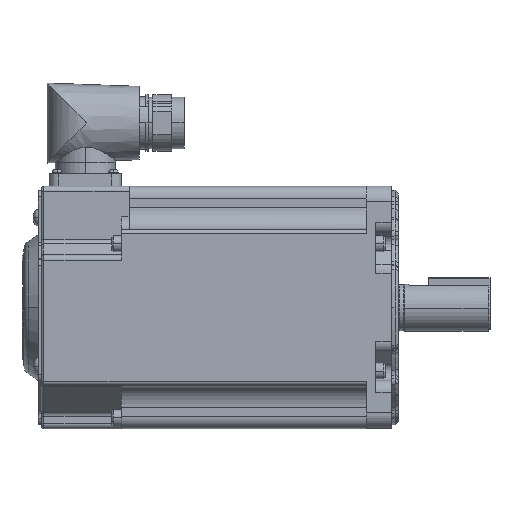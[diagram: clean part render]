
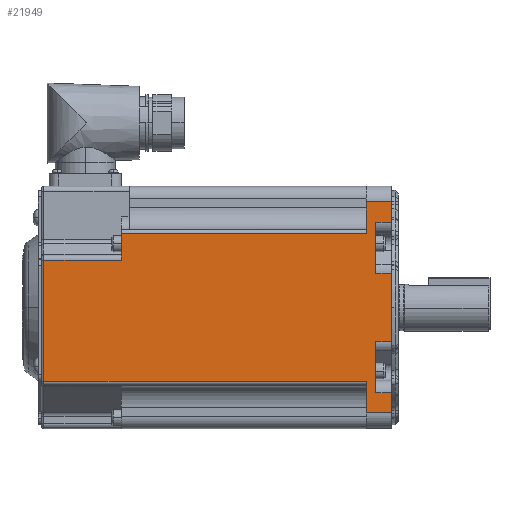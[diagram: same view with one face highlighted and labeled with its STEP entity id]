
A CAD part, top view. The second image highlights one B-rep face of the part: STEP entity #21949.
In plain terms, the highlighted planar face has unit normal (0, 0, 1) as drawn and (0, 0, -1) by its records, which use the part's own axes.
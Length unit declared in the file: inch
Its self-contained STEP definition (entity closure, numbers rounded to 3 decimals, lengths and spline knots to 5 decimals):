
#745 = FACE_OUTER_BOUND ( 'NONE', #7766, .T. ) ;
#748 = AXIS2_PLACEMENT_3D ( 'NONE', #11549, #11550, #11551 ) ;
#3017 = VERTEX_POINT ( 'NONE', #9523 ) ;
#3018 = VERTEX_POINT ( 'NONE', #9524 ) ;
#3030 = VERTEX_POINT ( 'NONE', #9536 ) ;
#3031 = VERTEX_POINT ( 'NONE', #9537 ) ;
#3052 = VERTEX_POINT ( 'NONE', #9558 ) ;
#3053 = VERTEX_POINT ( 'NONE', #9559 ) ;
#3054 = VERTEX_POINT ( 'NONE', #9560 ) ;
#3055 = VERTEX_POINT ( 'NONE', #9561 ) ;
#3056 = VERTEX_POINT ( 'NONE', #9562 ) ;
#3057 = VERTEX_POINT ( 'NONE', #9563 ) ;
#3058 = VERTEX_POINT ( 'NONE', #9564 ) ;
#3059 = VERTEX_POINT ( 'NONE', #9565 ) ;
#3060 = VERTEX_POINT ( 'NONE', #9566 ) ;
#3061 = VERTEX_POINT ( 'NONE', #9567 ) ;
#3062 = VERTEX_POINT ( 'NONE', #9568 ) ;
#3063 = VERTEX_POINT ( 'NONE', #9569 ) ;
#3983 = ORIENTED_EDGE ( 'NONE', *, *, #22528, .F. ) ;
#3985 = ORIENTED_EDGE ( 'NONE', *, *, #22529, .T. ) ;
#3986 = ORIENTED_EDGE ( 'NONE', *, *, #22527, .T. ) ;
#3987 = ORIENTED_EDGE ( 'NONE', *, *, #22530, .T. ) ;
#3988 = ORIENTED_EDGE ( 'NONE', *, *, #22438, .F. ) ;
#3989 = ORIENTED_EDGE ( 'NONE', *, *, #22531, .T. ) ;
#3990 = ORIENTED_EDGE ( 'NONE', *, *, #22533, .T. ) ;
#3991 = ORIENTED_EDGE ( 'NONE', *, *, #22532, .T. ) ;
#3992 = ORIENTED_EDGE ( 'NONE', *, *, #22534, .T. ) ;
#3993 = ORIENTED_EDGE ( 'NONE', *, *, #22535, .T. ) ;
#3994 = ORIENTED_EDGE ( 'NONE', *, *, #22536, .F. ) ;
#3995 = ORIENTED_EDGE ( 'NONE', *, *, #22537, .T. ) ;
#3996 = ORIENTED_EDGE ( 'NONE', *, *, #22502, .F. ) ;
#3997 = ORIENTED_EDGE ( 'NONE', *, *, #22538, .T. ) ;
#3998 = ORIENTED_EDGE ( 'NONE', *, *, #22540, .T. ) ;
#3999 = ORIENTED_EDGE ( 'NONE', *, *, #22539, .F. ) ;
#4000 = ORIENTED_EDGE ( 'NONE', *, *, #22481, .F. ) ;
#4001 = ORIENTED_EDGE ( 'NONE', *, *, #22541, .T. ) ;
#7766 = EDGE_LOOP ( 'NONE', ( #3983, #3986, #3985, #3987, #3988, #3989, #3991, #3990, #3992, #3993, #3994, #3995, #3996, #3997, #3999, #3998, #4000, #4001 ) ) ;
#8695 = VERTEX_POINT ( 'NONE', #10317 ) ;
#8696 = VERTEX_POINT ( 'NONE', #10318 ) ;
#9523 = CARTESIAN_POINT ( 'NONE',  ( -0.25, -1.36314, -1.935 ) ) ;
#9524 = CARTESIAN_POINT ( 'NONE',  ( -0.25, -0.54835, -1.935 ) ) ;
#9536 = CARTESIAN_POINT ( 'NONE',  ( -0.25, 0.54835, -1.935 ) ) ;
#9537 = CARTESIAN_POINT ( 'NONE',  ( -0.25, 1.36314, -1.935 ) ) ;
#9558 = CARTESIAN_POINT ( 'NONE',  ( 0., -1.685, -1.935 ) ) ;
#9559 = CARTESIAN_POINT ( 'NONE',  ( 0., -1.36314, -1.935 ) ) ;
#9560 = CARTESIAN_POINT ( 'NONE',  ( -0.4, -1.685, -1.935 ) ) ;
#9561 = CARTESIAN_POINT ( 'NONE',  ( -0.4, -1.1825, -1.935 ) ) ;
#9562 = CARTESIAN_POINT ( 'NONE',  ( -5.55, -0.755, -1.935 ) ) ;
#9563 = CARTESIAN_POINT ( 'NONE',  ( -5.55, 1.1825, -1.935 ) ) ;
#9564 = CARTESIAN_POINT ( 'NONE',  ( -0.4, 1.1825, -1.935 ) ) ;
#9565 = CARTESIAN_POINT ( 'NONE',  ( -0.4, 1.685, -1.935 ) ) ;
#9566 = CARTESIAN_POINT ( 'NONE',  ( 0., 1.685, -1.935 ) ) ;
#9567 = CARTESIAN_POINT ( 'NONE',  ( 0., 1.36314, -1.935 ) ) ;
#9568 = CARTESIAN_POINT ( 'NONE',  ( 0., 0.54835, -1.935 ) ) ;
#9569 = CARTESIAN_POINT ( 'NONE',  ( 0., -0.54835, -1.935 ) ) ;
#10317 = CARTESIAN_POINT ( 'NONE',  ( -4.315, -0.755, -1.935 ) ) ;
#10318 = CARTESIAN_POINT ( 'NONE',  ( -4.315, -1.1825, -1.935 ) ) ;
#11548 = PLANE ( 'NONE',  #748 ) ;
#11549 = CARTESIAN_POINT ( 'NONE',  ( -4.19, 1.245, -1.935 ) ) ;
#11550 = DIRECTION ( 'NONE',  ( 0., 0., 1. ) ) ;
#11551 = DIRECTION ( 'NONE',  ( 0., -1., 0. ) ) ;
#14013 = LINE ( 'NONE', #14014, #14143 ) ;
#14014 = CARTESIAN_POINT ( 'NONE',  ( -4.315, -1.935, -1.935 ) ) ;
#14015 = DIRECTION ( 'NONE',  ( 0., -1., 0. ) ) ;
#14143 = VECTOR ( 'NONE', #14015, 39.37008 ) ;
#14187 = VECTOR ( 'NONE', #14283, 39.37008 ) ;
#14208 = VECTOR ( 'NONE', #14346, 39.37008 ) ;
#14281 = LINE ( 'NONE', #14282, #14187 ) ;
#14282 = CARTESIAN_POINT ( 'NONE',  ( -0.25, -0.6312, -1.935 ) ) ;
#14283 = DIRECTION ( 'NONE',  ( 0., 1., 0. ) ) ;
#14344 = LINE ( 'NONE', #14345, #14208 ) ;
#14345 = CARTESIAN_POINT ( 'NONE',  ( -0.25, 0.6312, -1.935 ) ) ;
#14346 = DIRECTION ( 'NONE',  ( 0., 1., 0. ) ) ;
#14419 = LINE ( 'NONE', #14420, #14572 ) ;
#14420 = CARTESIAN_POINT ( 'NONE',  ( -4.19, -1.685, -1.935 ) ) ;
#14421 = DIRECTION ( 'NONE',  ( -1., 0., 0. ) ) ;
#14422 = LINE ( 'NONE', #14423, #14573 ) ;
#14423 = CARTESIAN_POINT ( 'NONE',  ( 0., -1.935, -1.935 ) ) ;
#14424 = DIRECTION ( 'NONE',  ( 0., 1., 0. ) ) ;
#14425 = LINE ( 'NONE', #14426, #14574 ) ;
#14426 = CARTESIAN_POINT ( 'NONE',  ( -0.4, -1.935, -1.935 ) ) ;
#14427 = DIRECTION ( 'NONE',  ( 0., 1., 0. ) ) ;
#14428 = LINE ( 'NONE', #14429, #14575 ) ;
#14429 = CARTESIAN_POINT ( 'NONE',  ( -4.19, -1.1825, -1.935 ) ) ;
#14430 = DIRECTION ( 'NONE',  ( -1., 0., 0. ) ) ;
#14431 = LINE ( 'NONE', #14432, #14576 ) ;
#14432 = CARTESIAN_POINT ( 'NONE',  ( -4.19, -0.755, -1.935 ) ) ;
#14433 = DIRECTION ( 'NONE',  ( -1., 0., 0. ) ) ;
#14434 = LINE ( 'NONE', #14435, #14577 ) ;
#14435 = CARTESIAN_POINT ( 'NONE',  ( -5.55, 1.1825, -1.935 ) ) ;
#14436 = DIRECTION ( 'NONE',  ( 0., 1., 0. ) ) ;
#14437 = LINE ( 'NONE', #14438, #14578 ) ;
#14438 = CARTESIAN_POINT ( 'NONE',  ( -4.19, 1.1825, -1.935 ) ) ;
#14439 = DIRECTION ( 'NONE',  ( 1., 0., 0. ) ) ;
#14440 = LINE ( 'NONE', #14441, #14579 ) ;
#14441 = CARTESIAN_POINT ( 'NONE',  ( -0.4, -1.935, -1.935 ) ) ;
#14442 = DIRECTION ( 'NONE',  ( 0., 1., 0. ) ) ;
#14443 = LINE ( 'NONE', #14444, #14580 ) ;
#14444 = CARTESIAN_POINT ( 'NONE',  ( -4.19, 1.685, -1.935 ) ) ;
#14445 = DIRECTION ( 'NONE',  ( 1., 0., 0. ) ) ;
#14446 = LINE ( 'NONE', #14447, #14581 ) ;
#14447 = CARTESIAN_POINT ( 'NONE',  ( 0., -1.935, -1.935 ) ) ;
#14448 = DIRECTION ( 'NONE',  ( 0., 1., 0. ) ) ;
#14449 = LINE ( 'NONE', #14450, #14582 ) ;
#14450 = CARTESIAN_POINT ( 'NONE',  ( -4.19, 1.36314, -1.935 ) ) ;
#14451 = DIRECTION ( 'NONE',  ( -1., 0., 0. ) ) ;
#14452 = LINE ( 'NONE', #14453, #14583 ) ;
#14453 = CARTESIAN_POINT ( 'NONE',  ( -4.19, 0.54835, -1.935 ) ) ;
#14454 = DIRECTION ( 'NONE',  ( 1., 0., 0. ) ) ;
#14455 = LINE ( 'NONE', #14456, #14584 ) ;
#14456 = CARTESIAN_POINT ( 'NONE',  ( 0., -1.935, -1.935 ) ) ;
#14457 = DIRECTION ( 'NONE',  ( 0., 1., 0. ) ) ;
#14458 = LINE ( 'NONE', #14459, #14585 ) ;
#14459 = CARTESIAN_POINT ( 'NONE',  ( -4.19, -0.54835, -1.935 ) ) ;
#14460 = DIRECTION ( 'NONE',  ( -1., 0., 0. ) ) ;
#14461 = LINE ( 'NONE', #14462, #14586 ) ;
#14462 = CARTESIAN_POINT ( 'NONE',  ( -4.19, -1.36314, -1.935 ) ) ;
#14463 = DIRECTION ( 'NONE',  ( 1., 0., 0. ) ) ;
#14572 = VECTOR ( 'NONE', #14421, 39.37008 ) ;
#14573 = VECTOR ( 'NONE', #14424, 39.37008 ) ;
#14574 = VECTOR ( 'NONE', #14427, 39.37008 ) ;
#14575 = VECTOR ( 'NONE', #14430, 39.37008 ) ;
#14576 = VECTOR ( 'NONE', #14433, 39.37008 ) ;
#14577 = VECTOR ( 'NONE', #14436, 39.37008 ) ;
#14578 = VECTOR ( 'NONE', #14439, 39.37008 ) ;
#14579 = VECTOR ( 'NONE', #14442, 39.37008 ) ;
#14580 = VECTOR ( 'NONE', #14445, 39.37008 ) ;
#14581 = VECTOR ( 'NONE', #14448, 39.37008 ) ;
#14582 = VECTOR ( 'NONE', #14451, 39.37008 ) ;
#14583 = VECTOR ( 'NONE', #14454, 39.37008 ) ;
#14584 = VECTOR ( 'NONE', #14457, 39.37008 ) ;
#14585 = VECTOR ( 'NONE', #14460, 39.37008 ) ;
#14586 = VECTOR ( 'NONE', #14463, 39.37008 ) ;
#21949 = ADVANCED_FACE ( 'NONE', ( #745 ), #11548, .F. ) ;
#22438 = EDGE_CURVE ( 'NONE', #8695, #8696, #14013, .T. ) ;
#22481 = EDGE_CURVE ( 'NONE', #3017, #3018, #14281, .T. ) ;
#22502 = EDGE_CURVE ( 'NONE', #3030, #3031, #14344, .T. ) ;
#22527 = EDGE_CURVE ( 'NONE', #3052, #3054, #14419, .T. ) ;
#22528 = EDGE_CURVE ( 'NONE', #3052, #3053, #14422, .T. ) ;
#22529 = EDGE_CURVE ( 'NONE', #3054, #3055, #14425, .T. ) ;
#22530 = EDGE_CURVE ( 'NONE', #3055, #8696, #14428, .T. ) ;
#22531 = EDGE_CURVE ( 'NONE', #8695, #3056, #14431, .T. ) ;
#22532 = EDGE_CURVE ( 'NONE', #3056, #3057, #14434, .T. ) ;
#22533 = EDGE_CURVE ( 'NONE', #3057, #3058, #14437, .T. ) ;
#22534 = EDGE_CURVE ( 'NONE', #3058, #3059, #14440, .T. ) ;
#22535 = EDGE_CURVE ( 'NONE', #3059, #3060, #14443, .T. ) ;
#22536 = EDGE_CURVE ( 'NONE', #3061, #3060, #14446, .T. ) ;
#22537 = EDGE_CURVE ( 'NONE', #3061, #3031, #14449, .T. ) ;
#22538 = EDGE_CURVE ( 'NONE', #3030, #3062, #14452, .T. ) ;
#22539 = EDGE_CURVE ( 'NONE', #3063, #3062, #14455, .T. ) ;
#22540 = EDGE_CURVE ( 'NONE', #3063, #3018, #14458, .T. ) ;
#22541 = EDGE_CURVE ( 'NONE', #3017, #3053, #14461, .T. ) ;
